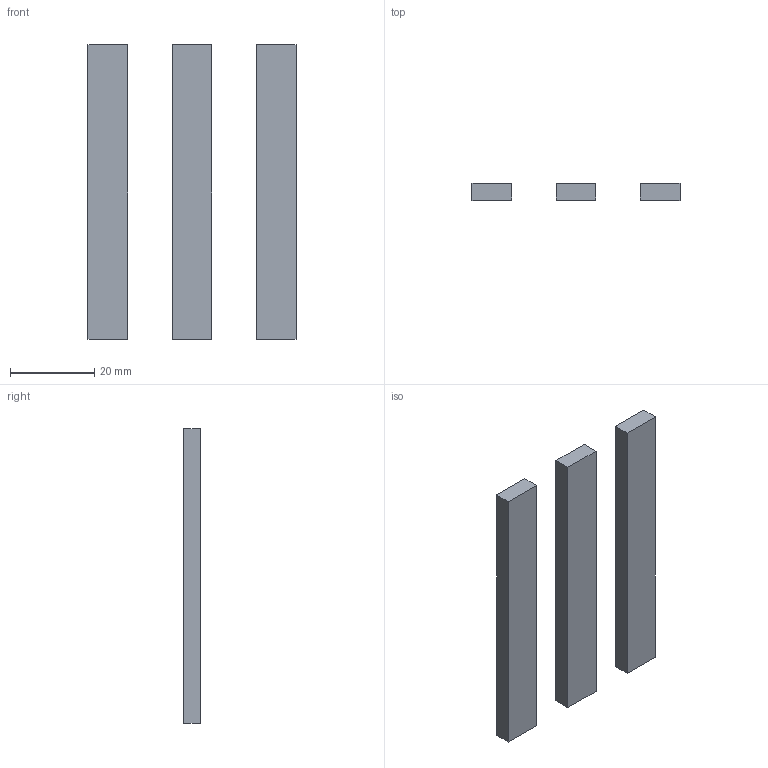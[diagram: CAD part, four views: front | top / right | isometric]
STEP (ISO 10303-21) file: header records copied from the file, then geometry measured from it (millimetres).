
FILE_DESCRIPTION(('Open CASCADE Model'),'2;1');
FILE_NAME('Open CASCADE Shape Model','2026-10-15T19:48:38',('Author'),( 'Open CASCADE'),'Open CASCADE STEP processor 7.9','Open CASCADE 7.9' ,'Unknown');
FILE_SCHEMA(('AUTOMOTIVE_DESIGN { 1 0 10303 214 1 1 1 1 }'));
Length unit declared in the file: millimetre
Products named in the file (4): Open CASCADE STEP translator 7.9 14; Open CASCADE STEP translator 7.9 14.1; Open CASCADE STEP translator 7.9 14.2; Open CASCADE STEP translator 7.9 14.3
Assembly tree (3 placements, depth 2):
  Open CASCADE STEP translator 7.9 14
    Open CASCADE STEP translator 7.9 14.1
    Open CASCADE STEP translator 7.9 14.2
    Open CASCADE STEP translator 7.9 14.3
Bounding box: 49.5 x 4 x 70 mm (x, y, z)
Volume: 7980 mm3; surface area: 5898 mm2
Topology: 3 solids, 3 shells, 18 faces, 36 edges, 24 vertices
Faces by surface type: plane 18
Entity records: 988 total; most frequent: CARTESIAN_POINT 154, DIRECTION 152, LINE 108, VECTOR 108, ORIENTED_EDGE 72, PCURVE 72, DEFINITIONAL_REPRESENTATION 72, EDGE_CURVE 36
